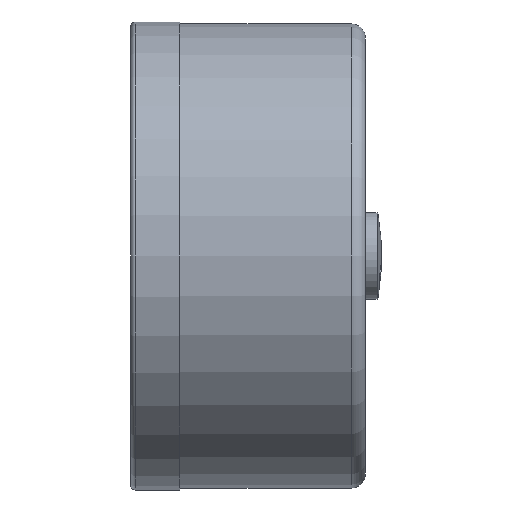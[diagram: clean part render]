
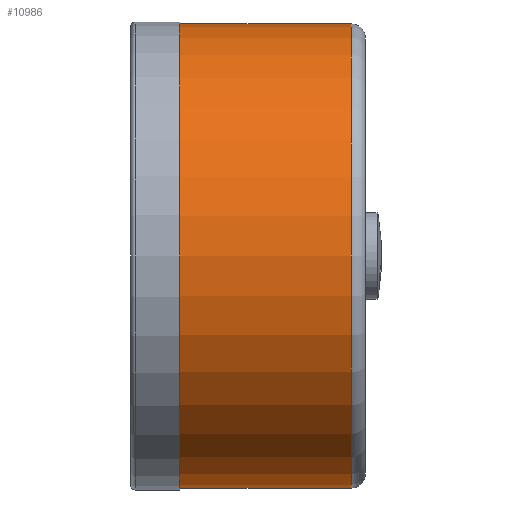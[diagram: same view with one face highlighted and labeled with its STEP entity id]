
A CAD part, left-side view. The second image highlights one B-rep face of the part: STEP entity #10986.
In plain terms, the highlighted cylindrical face has radius 49.5 mm (diameter 99 mm), a full revolution.
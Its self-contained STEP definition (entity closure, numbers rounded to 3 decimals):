
#3056=FACE_BOUND('',#4246,.T.);
#3057=FACE_BOUND('',#4247,.T.);
#3574=FACE_OUTER_BOUND('',#4245,.T.);
#4245=EDGE_LOOP('',(#9931));
#4246=EDGE_LOOP('',(#9932,#9933,#9934,#9935,#9936,#9937,#9938,#9939,#9940,
#9941));
#4247=EDGE_LOOP('',(#9942));
#4618=CIRCLE('',#11740,49.5);
#4619=CIRCLE('',#11741,49.5);
#4883=B_SPLINE_CURVE_WITH_KNOTS('',3,(#18690,#18691,#18692,#18693,#18694,
#18695),.UNSPECIFIED.,.F.,.F.,(4,2,4),(-1.087,0.,0.005),
 .UNSPECIFIED.);
#4886=B_SPLINE_CURVE_WITH_KNOTS('',3,(#18734,#18735,#18736,#18737,#18738,
#18739),.UNSPECIFIED.,.F.,.F.,(4,2,4),(-1.092,-1.087,
0.),.UNSPECIFIED.);
#4887=B_SPLINE_CURVE_WITH_KNOTS('',3,(#18781,#18782,#18783,#18784,#18785,
#18786,#18787,#18788,#18789),.UNSPECIFIED.,.F.,.F.,(4,1,1,1,1,1,4),(-2.453,
-2.015,-1.752,-1.051,-0.701,
-0.438,0.),.UNSPECIFIED.);
#4889=B_SPLINE_CURVE_WITH_KNOTS('',3,(#18817,#18818,#18819,#18820),
 .UNSPECIFIED.,.F.,.F.,(4,4),(-0.254,0.),.UNSPECIFIED.);
#4892=B_SPLINE_CURVE_WITH_KNOTS('',3,(#18857,#18858,#18859,#18860,#18861,
#18862),.UNSPECIFIED.,.F.,.F.,(4,2,4),(-1.092,-1.087,
0.),.UNSPECIFIED.);
#4893=B_SPLINE_CURVE_WITH_KNOTS('',3,(#18891,#18892,#18893,#18894,#18895,
#18896),.UNSPECIFIED.,.F.,.F.,(4,2,4),(-1.087,0.,0.005),
 .UNSPECIFIED.);
#4895=B_SPLINE_CURVE_WITH_KNOTS('',3,(#18919,#18920,#18921,#18922),
 .UNSPECIFIED.,.F.,.F.,(4,4),(-0.254,0.),
 .UNSPECIFIED.);
#4897=B_SPLINE_CURVE_WITH_KNOTS('',3,(#18967,#18968,#18969,#18970,#18971,
#18972,#18973,#18974,#18975),.UNSPECIFIED.,.F.,.F.,(4,1,1,1,1,1,4),(-2.453,
-2.015,-1.752,-1.051,-0.701,
-0.438,0.),.UNSPECIFIED.);
#4899=B_SPLINE_CURVE_WITH_KNOTS('',3,(#19003,#19004,#19005,#19006),
 .UNSPECIFIED.,.F.,.F.,(4,4),(-0.254,0.),.UNSPECIFIED.);
#4901=B_SPLINE_CURVE_WITH_KNOTS('',3,(#19027,#19028,#19029,#19030),
 .UNSPECIFIED.,.F.,.F.,(4,4),(-0.254,0.),
 .UNSPECIFIED.);
#5798=VERTEX_POINT('',#18630);
#5800=VERTEX_POINT('',#18639);
#5805=VERTEX_POINT('',#18688);
#5807=VERTEX_POINT('',#18733);
#5809=VERTEX_POINT('',#18778);
#5810=VERTEX_POINT('',#18780);
#5813=VERTEX_POINT('',#18856);
#5815=VERTEX_POINT('',#18889);
#5817=VERTEX_POINT('',#18964);
#5818=VERTEX_POINT('',#18966);
#5820=VERTEX_POINT('',#19142);
#5821=VERTEX_POINT('',#19144);
#7204=EDGE_CURVE('',#5805,#5800,#4883,.T.);
#7207=EDGE_CURVE('',#5800,#5807,#4886,.T.);
#7210=EDGE_CURVE('',#5809,#5810,#4887,.T.);
#7213=EDGE_CURVE('',#5810,#5805,#4889,.T.);
#7216=EDGE_CURVE('',#5798,#5813,#4892,.T.);
#7219=EDGE_CURVE('',#5815,#5798,#4893,.T.);
#7221=EDGE_CURVE('',#5813,#5809,#4895,.T.);
#7224=EDGE_CURVE('',#5817,#5818,#4897,.T.);
#7227=EDGE_CURVE('',#5818,#5815,#4899,.T.);
#7229=EDGE_CURVE('',#5807,#5817,#4901,.T.);
#7237=EDGE_CURVE('',#5820,#5820,#4618,.T.);
#7238=EDGE_CURVE('',#5821,#5821,#4619,.T.);
#9931=ORIENTED_EDGE('',*,*,#7237,.T.);
#9932=ORIENTED_EDGE('',*,*,#7204,.F.);
#9933=ORIENTED_EDGE('',*,*,#7213,.F.);
#9934=ORIENTED_EDGE('',*,*,#7210,.F.);
#9935=ORIENTED_EDGE('',*,*,#7221,.F.);
#9936=ORIENTED_EDGE('',*,*,#7216,.F.);
#9937=ORIENTED_EDGE('',*,*,#7219,.F.);
#9938=ORIENTED_EDGE('',*,*,#7227,.F.);
#9939=ORIENTED_EDGE('',*,*,#7224,.F.);
#9940=ORIENTED_EDGE('',*,*,#7229,.F.);
#9941=ORIENTED_EDGE('',*,*,#7207,.F.);
#9942=ORIENTED_EDGE('',*,*,#7238,.T.);
#10462=CYLINDRICAL_SURFACE('',#11739,49.5);
#10986=ADVANCED_FACE('',(#3574,#3056,#3057),#10462,.T.);
#11739=AXIS2_PLACEMENT_3D('',#19141,#14044,#14045);
#11740=AXIS2_PLACEMENT_3D('',#19143,#14046,#14047);
#11741=AXIS2_PLACEMENT_3D('',#19145,#14048,#14049);
#14044=DIRECTION('center_axis',(0.,1.,0.));
#14045=DIRECTION('ref_axis',(-1.,0.,0.));
#14046=DIRECTION('center_axis',(0.,-1.,0.));
#14047=DIRECTION('ref_axis',(-1.,0.,0.));
#14048=DIRECTION('center_axis',(0.,1.,0.));
#14049=DIRECTION('ref_axis',(-1.,0.,0.));
#18630=CARTESIAN_POINT('',(49.5,37.,0.));
#18639=CARTESIAN_POINT('',(49.5,7.,0.));
#18688=CARTESIAN_POINT('',(48.439,9.67,10.193));
#18690=CARTESIAN_POINT('Ctrl Pts',(48.439,9.67,10.193));
#18691=CARTESIAN_POINT('Ctrl Pts',(49.066,7.802,7.214));
#18692=CARTESIAN_POINT('Ctrl Pts',(49.504,6.844,3.604));
#18693=CARTESIAN_POINT('Ctrl Pts',(49.5,6.999,0.031));
#18694=CARTESIAN_POINT('Ctrl Pts',(49.5,6.999,0.016));
#18695=CARTESIAN_POINT('Ctrl Pts',(49.5,7.,0.));
#18733=CARTESIAN_POINT('',(48.439,9.67,-10.193));
#18734=CARTESIAN_POINT('Ctrl Pts',(49.5,7.,0.));
#18735=CARTESIAN_POINT('Ctrl Pts',(49.5,6.999,-0.016));
#18736=CARTESIAN_POINT('Ctrl Pts',(49.5,6.999,-0.031));
#18737=CARTESIAN_POINT('Ctrl Pts',(49.501,6.847,-3.602));
#18738=CARTESIAN_POINT('Ctrl Pts',(49.066,7.802,-7.214));
#18739=CARTESIAN_POINT('Ctrl Pts',(48.439,9.67,-10.193));
#18778=CARTESIAN_POINT('',(47.987,32.816,12.143));
#18780=CARTESIAN_POINT('',(47.987,11.184,12.143));
#18781=CARTESIAN_POINT('Ctrl Pts',(47.987,32.816,12.143));
#18782=CARTESIAN_POINT('Ctrl Pts',(47.727,31.838,13.173));
#18783=CARTESIAN_POINT('Ctrl Pts',(47.304,30.048,14.625));
#18784=CARTESIAN_POINT('Ctrl Pts',(46.613,25.889,16.689));
#18785=CARTESIAN_POINT('Ctrl Pts',(46.383,21.39,17.282));
#18786=CARTESIAN_POINT('Ctrl Pts',(46.79,17.089,16.172));
#18787=CARTESIAN_POINT('Ctrl Pts',(47.295,13.976,14.645));
#18788=CARTESIAN_POINT('Ctrl Pts',(47.727,12.162,13.173));
#18789=CARTESIAN_POINT('Ctrl Pts',(47.987,11.184,12.143));
#18817=CARTESIAN_POINT('Ctrl Pts',(47.987,11.184,12.143));
#18818=CARTESIAN_POINT('Ctrl Pts',(48.139,10.616,11.545));
#18819=CARTESIAN_POINT('Ctrl Pts',(48.293,10.106,10.89));
#18820=CARTESIAN_POINT('Ctrl Pts',(48.439,9.67,10.193));
#18856=CARTESIAN_POINT('',(48.439,34.33,10.193));
#18857=CARTESIAN_POINT('Ctrl Pts',(49.5,37.,0.));
#18858=CARTESIAN_POINT('Ctrl Pts',(49.5,37.001,0.016));
#18859=CARTESIAN_POINT('Ctrl Pts',(49.5,37.001,0.031));
#18860=CARTESIAN_POINT('Ctrl Pts',(49.501,37.153,3.602));
#18861=CARTESIAN_POINT('Ctrl Pts',(49.066,36.198,7.214));
#18862=CARTESIAN_POINT('Ctrl Pts',(48.439,34.33,10.193));
#18889=CARTESIAN_POINT('',(48.439,34.33,-10.193));
#18891=CARTESIAN_POINT('Ctrl Pts',(48.439,34.33,-10.193));
#18892=CARTESIAN_POINT('Ctrl Pts',(49.066,36.198,-7.214));
#18893=CARTESIAN_POINT('Ctrl Pts',(49.504,37.155,-3.604));
#18894=CARTESIAN_POINT('Ctrl Pts',(49.5,37.001,-0.031));
#18895=CARTESIAN_POINT('Ctrl Pts',(49.5,37.001,-0.016));
#18896=CARTESIAN_POINT('Ctrl Pts',(49.5,37.,0.));
#18919=CARTESIAN_POINT('Ctrl Pts',(48.439,34.33,10.193));
#18920=CARTESIAN_POINT('Ctrl Pts',(48.293,33.894,10.89));
#18921=CARTESIAN_POINT('Ctrl Pts',(48.139,33.384,11.545));
#18922=CARTESIAN_POINT('Ctrl Pts',(47.987,32.816,12.143));
#18964=CARTESIAN_POINT('',(47.987,11.184,-12.143));
#18966=CARTESIAN_POINT('',(47.987,32.816,-12.143));
#18967=CARTESIAN_POINT('Ctrl Pts',(47.987,11.184,-12.143));
#18968=CARTESIAN_POINT('Ctrl Pts',(47.727,12.162,-13.173));
#18969=CARTESIAN_POINT('Ctrl Pts',(47.304,13.952,-14.625));
#18970=CARTESIAN_POINT('Ctrl Pts',(46.613,18.111,-16.689));
#18971=CARTESIAN_POINT('Ctrl Pts',(46.383,22.61,-17.282));
#18972=CARTESIAN_POINT('Ctrl Pts',(46.79,26.911,-16.172));
#18973=CARTESIAN_POINT('Ctrl Pts',(47.295,30.024,-14.645));
#18974=CARTESIAN_POINT('Ctrl Pts',(47.727,31.838,-13.173));
#18975=CARTESIAN_POINT('Ctrl Pts',(47.987,32.816,-12.143));
#19003=CARTESIAN_POINT('Ctrl Pts',(47.987,32.816,-12.143));
#19004=CARTESIAN_POINT('Ctrl Pts',(48.139,33.384,-11.545));
#19005=CARTESIAN_POINT('Ctrl Pts',(48.293,33.894,-10.89));
#19006=CARTESIAN_POINT('Ctrl Pts',(48.439,34.33,-10.193));
#19027=CARTESIAN_POINT('Ctrl Pts',(48.439,9.67,-10.193));
#19028=CARTESIAN_POINT('Ctrl Pts',(48.293,10.106,-10.89));
#19029=CARTESIAN_POINT('Ctrl Pts',(48.139,10.616,-11.545));
#19030=CARTESIAN_POINT('Ctrl Pts',(47.987,11.184,-12.143));
#19141=CARTESIAN_POINT('Origin',(0.,25.55,0.));
#19142=CARTESIAN_POINT('',(0.,39.6,49.5));
#19143=CARTESIAN_POINT('Origin',(0.,39.6,0.));
#19144=CARTESIAN_POINT('',(-49.5,3.,0.));
#19145=CARTESIAN_POINT('Origin',(0.,3.,0.));
